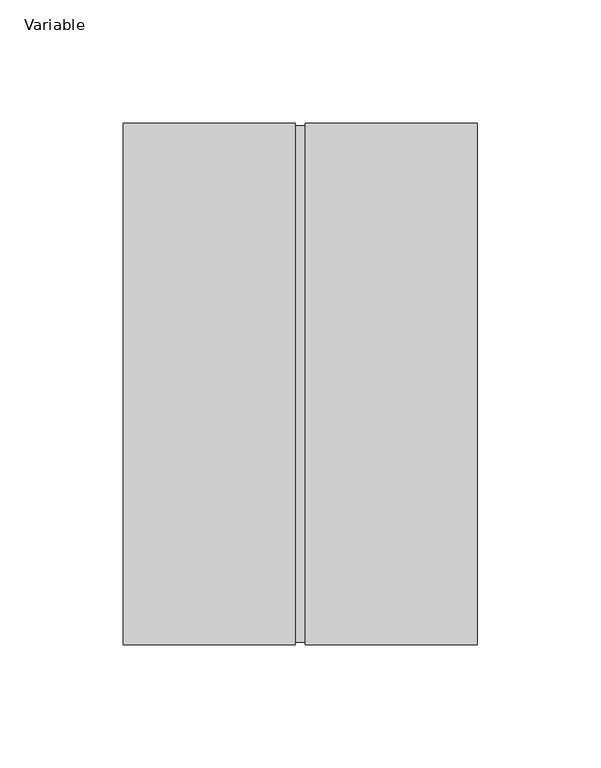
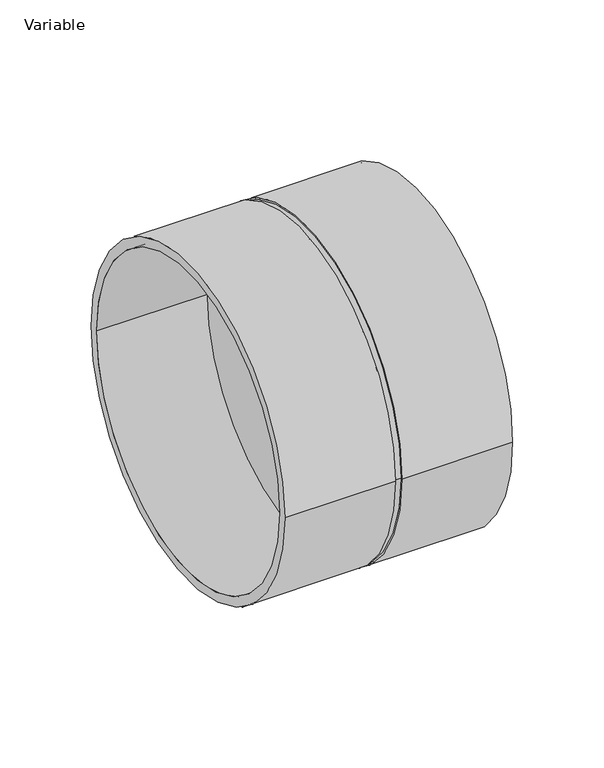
"""IFC4 building model written with IfcOpenShell, lengths in millimetres: pipe fitting geometry, AliaxisFR_Friaphon_RepairCoupling_FR : Variable."""

from ifc_helpers import new_model, si_unit, point, frame, origin, origin_2d, place, context, project, spatial, circle_curve, trimmed, segment, composite_curve, outline, extrude, source, transform, mapped, element, save


def variable_3338416d(model_context):
    return source(origin(), model_context, "Body", "SweptSolid", [
        extrude(outline(composite_curve([segment(trimmed(circle_curve(origin_2d(), 106.0), [point((-106.0, 0.0))], [point((106.0, 0.0))], False, "CARTESIAN"), True, "CONTINUOUS"), segment(trimmed(circle_curve(origin_2d(), 106.0), [point((106.0, 0.0))], [point((-106.0, 0.0))], False, "CARTESIAN"), True, "CONTINUOUS")], self_intersect=False), holes=[composite_curve([segment(trimmed(circle_curve(origin_2d(), 105.0), [point((-105.0, 0.0))], [point((105.0, 0.0))], True, "CARTESIAN"), True, "CONTINUOUS"), segment(trimmed(circle_curve(origin_2d(), 105.0), [point((105.0, 0.0))], [point((-105.0, 0.0))], True, "CARTESIAN"), True, "CONTINUOUS")], self_intersect=False)]), frame((74.0, 0.0, 0.0), z_axis=(1.0, 0.0, 0.0), x_axis=(0.0, 1.0, 0.0)), (0.0, 0.0, 1.0), 70.0),
        extrude(outline(composite_curve([segment(trimmed(circle_curve(origin_2d(), 105.0), [point((-105.0, 0.0))], [point((105.0, 0.0))], False, "CARTESIAN"), True, "CONTINUOUS"), segment(trimmed(circle_curve(origin_2d(), 105.0), [point((105.0, 0.0))], [point((-105.0, 0.0))], False, "CARTESIAN"), True, "CONTINUOUS")], self_intersect=False)), frame((70.0, 0.0, 0.0), z_axis=(1.0, 0.0, 0.0), x_axis=(0.0, 1.0, 0.0)), (0.0, 0.0, 1.0), 4.0),
        extrude(outline(composite_curve([segment(trimmed(circle_curve(origin_2d(), 106.0), [point((-106.0, 0.0))], [point((106.0, 0.0))], False, "CARTESIAN"), True, "CONTINUOUS"), segment(trimmed(circle_curve(origin_2d(), 106.0), [point((106.0, 0.0))], [point((-106.0, 0.0))], False, "CARTESIAN"), True, "CONTINUOUS")], self_intersect=False), holes=[composite_curve([segment(trimmed(circle_curve(origin_2d(), 100.0), [point((-100.0, 0.0))], [point((100.0, 0.0))], True, "CARTESIAN"), True, "CONTINUOUS"), segment(trimmed(circle_curve(origin_2d(), 100.0), [point((100.0, 0.0))], [point((-100.0, 0.0))], True, "CARTESIAN"), True, "CONTINUOUS")], self_intersect=False)]), frame((0.0, 0.0, 0.0), z_axis=(1.0, 0.0, 0.0), x_axis=(0.0, 1.0, 0.0)), (0.0, 0.0, 1.0), 70.0),
    ])


if __name__ == "__main__":
    model = new_model("IFC4")
    model_context = context("Model", 3, world=origin())
    ifc_project = project(units=[si_unit("LENGTHUNIT", "METRE", prefix="MILLI")], contexts=[model_context])
    site = spatial("IfcSite", under=ifc_project)
    building = spatial("IfcBuilding", under=site)
    placement = place(None, origin())
    variable_shape = variable_3338416d(model_context)
    element("IfcPipeFitting", 1, ObjectType="AliaxisFR_Friaphon_RepairCoupling_FR : Variable", at=placement, inside=building, context=model_context, shape_type="MappedRepresentation", body=[
        mapped(variable_shape, transform((0.0, 0.0, 0.0), x_axis=(1.0, 0.0, 0.0), y_axis=(0.0, 1.0, 0.0), z_axis=(0.0, 0.0, 1.0))),
    ])
    save(model, "model.ifc")
